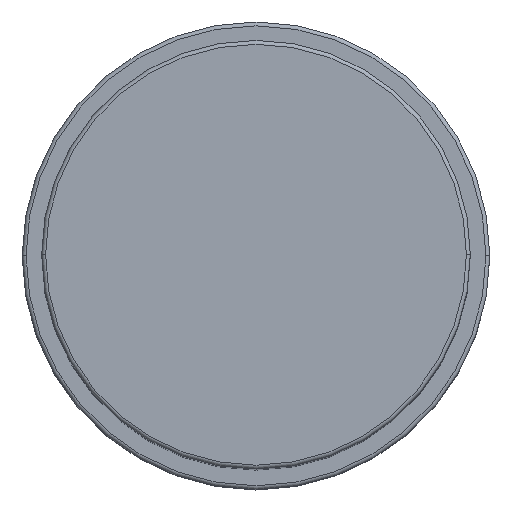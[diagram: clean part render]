
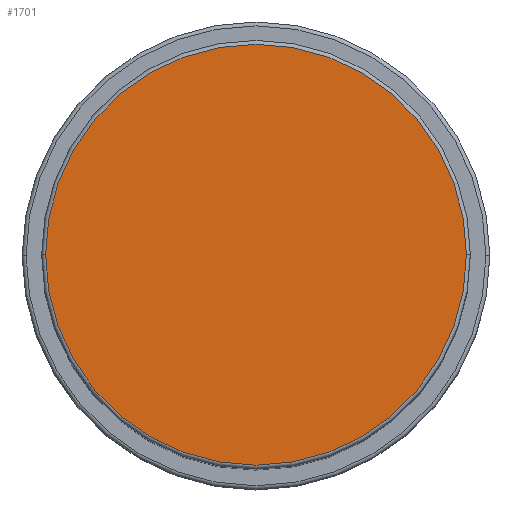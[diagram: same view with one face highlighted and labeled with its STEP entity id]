
A CAD part, top view. The second image highlights one B-rep face of the part: STEP entity #1701.
In plain terms, the highlighted planar face has unit normal (0, 0, 1).
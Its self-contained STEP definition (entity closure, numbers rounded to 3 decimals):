
#74 = DIRECTION ( 'NONE',  ( 1., 0., 0. ) ) ;
#80 = CARTESIAN_POINT ( 'NONE',  ( 0., 0., 106. ) ) ;
#161 = AXIS2_PLACEMENT_3D ( 'NONE', #334, #339, #1501 ) ;
#326 = EDGE_LOOP ( 'NONE', ( #407, #1770 ) ) ;
#334 = CARTESIAN_POINT ( 'NONE',  ( 0., 0., 106. ) ) ;
#339 = DIRECTION ( 'NONE',  ( 0., 0., 1. ) ) ;
#393 = EDGE_CURVE ( 'NONE', #1952, #1347, #1539, .T. ) ;
#407 = ORIENTED_EDGE ( 'NONE', *, *, #782, .T. ) ;
#659 = DIRECTION ( 'NONE',  ( 0., 0., 1. ) ) ;
#782 = EDGE_CURVE ( 'NONE', #1347, #1952, #1885, .T. ) ;
#958 = CARTESIAN_POINT ( 'NONE',  ( -27., 0., 106. ) ) ;
#1127 = AXIS2_PLACEMENT_3D ( 'NONE', #80, #1258, #1266 ) ;
#1258 = DIRECTION ( 'NONE',  ( 0., 0., 1. ) ) ;
#1266 = DIRECTION ( 'NONE',  ( 1., 0., 0. ) ) ;
#1347 = VERTEX_POINT ( 'NONE', #1497 ) ;
#1497 = CARTESIAN_POINT ( 'NONE',  ( 27., 0., 106. ) ) ;
#1501 = DIRECTION ( 'NONE',  ( 1., 0., 0. ) ) ;
#1539 = CIRCLE ( 'NONE', #1916, 27. ) ;
#1601 = CARTESIAN_POINT ( 'NONE',  ( 0., 0., 106. ) ) ;
#1683 = FACE_OUTER_BOUND ( 'NONE', #326, .T. ) ;
#1701 = ADVANCED_FACE ( 'NONE', ( #1683 ), #1905, .T. ) ;
#1770 = ORIENTED_EDGE ( 'NONE', *, *, #393, .T. ) ;
#1885 = CIRCLE ( 'NONE', #161, 27. ) ;
#1905 = PLANE ( 'NONE',  #1127 ) ;
#1916 = AXIS2_PLACEMENT_3D ( 'NONE', #1601, #659, #74 ) ;
#1952 = VERTEX_POINT ( 'NONE', #958 ) ;
